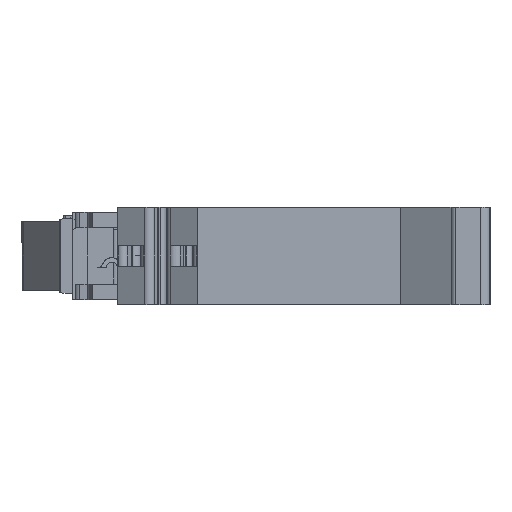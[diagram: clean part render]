
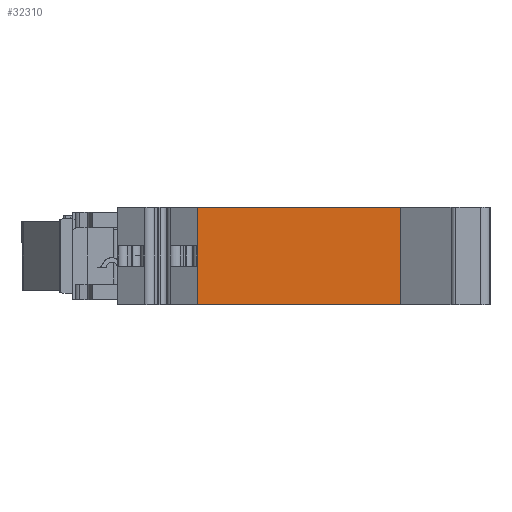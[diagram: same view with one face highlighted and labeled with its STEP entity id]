
A CAD part, left-side view. The second image highlights one B-rep face of the part: STEP entity #32310.
In plain terms, the highlighted planar face has unit normal (-1, 0, 0).
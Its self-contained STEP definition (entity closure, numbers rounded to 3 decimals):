
#5446=DIRECTION('',(0.,0.,-1.));
#5447=VECTOR('',#5446,10.);
#5448=CARTESIAN_POINT('',(-87.7,26.273,0.));
#5449=LINE('',#5448,#5447);
#5450=DIRECTION('',(0.,-1.,0.));
#5451=VECTOR('',#5450,20.873);
#5452=CARTESIAN_POINT('',(-87.7,26.273,0.));
#5453=LINE('',#5452,#5451);
#5454=DIRECTION('',(0.,1.,0.));
#5455=VECTOR('',#5454,20.873);
#5456=CARTESIAN_POINT('',(-87.7,5.4,-10.));
#5457=LINE('',#5456,#5455);
#5466=DIRECTION('',(0.,0.,1.));
#5467=VECTOR('',#5466,10.);
#5468=CARTESIAN_POINT('',(-87.7,5.4,-10.));
#5469=LINE('',#5468,#5467);
#19443=CARTESIAN_POINT('',(-87.7,26.273,-10.));
#19444=VERTEX_POINT('',#19443);
#20966=CARTESIAN_POINT('',(-87.7,5.4,0.));
#20968=VERTEX_POINT('',#20966);
#21017=CARTESIAN_POINT('',(-87.7,5.4,-10.));
#21019=VERTEX_POINT('',#21017);
#21303=CARTESIAN_POINT('',(-87.7,26.273,0.));
#21305=VERTEX_POINT('',#21303);
#32298=CARTESIAN_POINT('',(-87.7,18.136,-7.5));
#32299=DIRECTION('',(1.,0.,0.));
#32300=DIRECTION('',(0.,1.,0.));
#32301=AXIS2_PLACEMENT_3D('',#32298,#32299,#32300);
#32302=PLANE('',#32301);
#32303=ORIENTED_EDGE('',*,*,#32278,.F.);
#32304=ORIENTED_EDGE('',*,*,#26307,.T.);
#32306=ORIENTED_EDGE('',*,*,#32305,.F.);
#32307=ORIENTED_EDGE('',*,*,#27065,.T.);
#32308=EDGE_LOOP('',(#32303,#32304,#32306,#32307));
#32309=FACE_OUTER_BOUND('',#32308,.F.);
#32310=ADVANCED_FACE('',(#32309),#32302,.F.);
#26307=EDGE_CURVE('',#21305,#20968,#5453,.T.);
#27065=EDGE_CURVE('',#21019,#19444,#5457,.T.);
#32278=EDGE_CURVE('',#21305,#19444,#5449,.T.);
#32305=EDGE_CURVE('',#21019,#20968,#5469,.T.);
